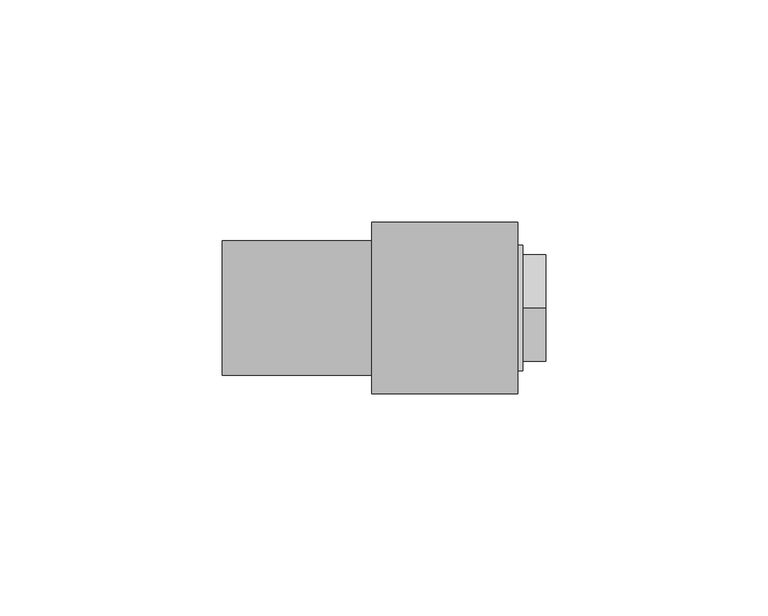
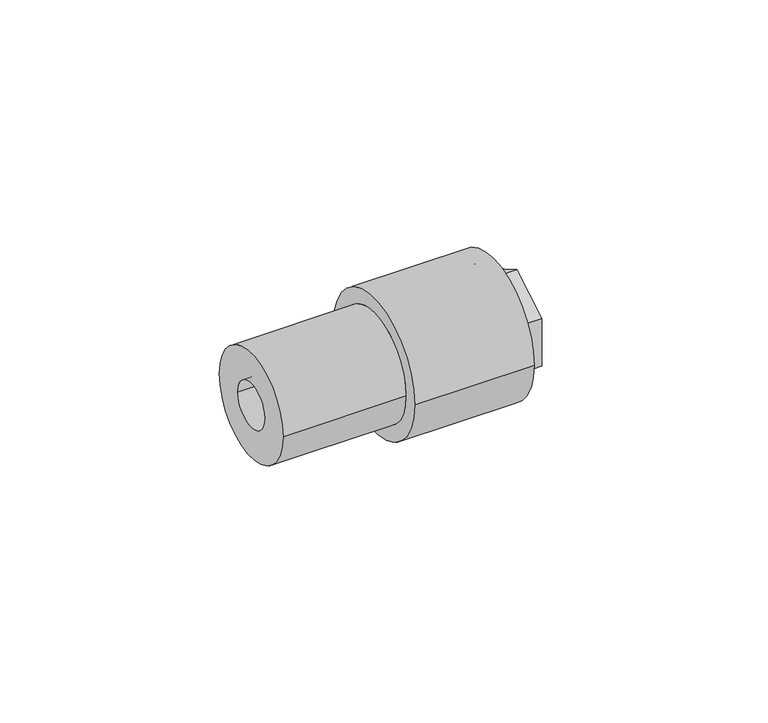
"""IFC4 building model written with IfcOpenShell, lengths in millimetres: pipe fitting geometry, Aquatherm - Fusion Outlet Transition Female : POTABLE BRASS - HEX."""

from ifc_helpers import new_model, si_unit, frame, origin, place, context, project, spatial, polyline, circle_curve, source, transform, mapped, element, save
from ifc_brep_helpers import plane_surface, cylinder_surface, revolved_surface, advanced_brep


def pipe_fitting_379d69c2(model_context):
    return source(origin(), model_context, "Body", "AdvancedBrep", [
        advanced_brep(
        [(26.416, 9.525, 0.0), (26.416, -9.525, 0.0), (36.5363125, -9.525, 0.0), (36.5363125, 9.525, 0.0), (26.416, 10.31875, 0.0), (26.416, -10.31875, 0.0), (23.241, 10.31875, 0.0), (23.241, -10.31875, 0.0), (23.241, 6.35, 0.0), (23.241, -6.35, 0.0), (20.066, 6.35, 0.0), (20.066, -6.35, 0.0), (20.066, 15.113, 0.0), (20.066, -15.113, 0.0), (32.766, 15.113, 0.0), (32.766, -15.113, 0.0), (39.116, 10.31875, 0.0), (39.116, -10.31875, 0.0), (39.116, -11.938, 0.0), (39.116, -11.938, -6.8924075), (39.116, 0.0, -13.784815), (39.116, 11.938, -6.8924075), (39.116, 11.938, 0.0), (39.116, 11.938, 6.8924075), (39.116, 0.0, 13.784815), (39.116, -11.938, 6.8924075), (32.766, 14.097, 0.0), (32.766, -14.097, 0.0), (33.956625, 14.097, 0.0), (33.956625, -14.097, 0.0), (33.956625, 0.0, -13.784815), (33.956625, -11.938, -6.8924075), (33.956625, -11.938, 6.8924075), (33.956625, 0.0, 13.784815), (33.956625, 11.938, 6.8924075), (33.956625, 11.938, -6.8924075)],
        [
            (0, 1, circle_curve(frame((26.416, 0.0, 0.0), z_axis=(-1.0, 0.0, 0.0), x_axis=(0.0, -1.0, 0.0)), 9.525)),
            (1, 2),
            (2, 3, circle_curve(frame((36.5363125, 0.0, 0.0), z_axis=(1.0, 0.0, 0.0), x_axis=(0.0, -1.0, 0.0)), 9.525)),
            (3, 0),
            (1, 0, circle_curve(frame((26.416, 0.0, 0.0), z_axis=(-1.0, 0.0, 0.0), x_axis=(0.0, -1.0, 0.0)), 9.525)),
            (3, 2, circle_curve(frame((36.5363125, 0.0, 0.0), z_axis=(1.0, 0.0, 0.0), x_axis=(0.0, -1.0, 0.0)), 9.525)),
            (0, 4),
            (4, 5, circle_curve(frame((26.416, 0.0, 0.0), z_axis=(-1.0, 0.0, 0.0), x_axis=(0.0, -1.0, 0.0)), 10.31875)),
            (5, 1),
            (5, 4, circle_curve(frame((26.416, 0.0, 0.0), z_axis=(-1.0, 0.0, 0.0), x_axis=(0.0, -1.0, 0.0)), 10.31875)),
            (4, 6),
            (6, 7, circle_curve(frame((23.241, 0.0, 0.0), z_axis=(-1.0, 0.0, 0.0), x_axis=(0.0, -1.0, 0.0)), 10.31875)),
            (7, 5),
            (7, 6, circle_curve(frame((23.241, 0.0, 0.0), z_axis=(-1.0, 0.0, 0.0), x_axis=(0.0, -1.0, 0.0)), 10.31875)),
            (6, 8),
            (8, 9, circle_curve(frame((23.241, 0.0, 0.0), z_axis=(-1.0, 0.0, 0.0), x_axis=(0.0, -1.0, 0.0)), 6.35)),
            (9, 7),
            (9, 8, circle_curve(frame((23.241, 0.0, 0.0), z_axis=(-1.0, 0.0, 0.0), x_axis=(0.0, -1.0, 0.0)), 6.35)),
            (8, 10),
            (10, 11, circle_curve(frame((20.066, 0.0, 0.0), z_axis=(-1.0, 0.0, 0.0), x_axis=(0.0, -1.0, 0.0)), 6.35)),
            (11, 9),
            (11, 10, circle_curve(frame((20.066, 0.0, 0.0), z_axis=(-1.0, 0.0, 0.0), x_axis=(0.0, -1.0, 0.0)), 6.35)),
            (10, 12),
            (12, 13, circle_curve(frame((20.066, 0.0, 0.0), z_axis=(-1.0, 0.0, 0.0), x_axis=(0.0, -1.0, 0.0)), 15.113)),
            (13, 11),
            (13, 12, circle_curve(frame((20.066, 0.0, 0.0), z_axis=(-1.0, 0.0, 0.0), x_axis=(0.0, -1.0, 0.0)), 15.113)),
            (12, 14),
            (14, 15, circle_curve(frame((32.766, 0.0, 0.0), z_axis=(-1.0, 0.0, 0.0), x_axis=(0.0, -1.0, 0.0)), 15.113)),
            (15, 13),
            (15, 14, circle_curve(frame((32.766, 0.0, 0.0), z_axis=(-1.0, 0.0, 0.0), x_axis=(0.0, -1.0, 0.0)), 15.113)),
            (16, 17, circle_curve(frame((39.116, 0.0, 0.0), z_axis=(-1.0, 0.0, 0.0), x_axis=(0.0, -1.0, 0.0)), 10.31875)),
            (17, 18),
            (18, 19),
            (19, 20),
            (20, 21),
            (21, 22),
            (22, 16),
            (17, 16, circle_curve(frame((39.116, 0.0, 0.0), z_axis=(-1.0, 0.0, 0.0), x_axis=(0.0, -1.0, 0.0)), 10.31875)),
            (22, 23),
            (23, 24),
            (24, 25),
            (25, 18),
            (2, 17),
            (16, 3),
            (14, 26),
            (26, 27, circle_curve(frame((32.766, 0.0, 0.0), z_axis=(-1.0, 0.0, 0.0), x_axis=(0.0, -1.0, 0.0)), 14.097)),
            (27, 15),
            (27, 26, circle_curve(frame((32.766, 0.0, 0.0), z_axis=(-1.0, 0.0, 0.0), x_axis=(0.0, -1.0, 0.0)), 14.097)),
            (26, 28),
            (28, 29, circle_curve(frame((33.956625, 0.0, 0.0), z_axis=(-1.0, 0.0, 0.0), x_axis=(0.0, -1.0, 0.0)), 14.097)),
            (29, 27),
            (29, 28, circle_curve(frame((33.956625, 0.0, 0.0), z_axis=(-1.0, 0.0, 0.0), x_axis=(0.0, -1.0, 0.0)), 14.097)),
            (30, 31),
            (31, 32),
            (32, 33),
            (33, 34),
            (34, 35),
            (35, 30),
            (35, 21),
            (20, 30),
            (34, 23),
            (33, 24),
            (32, 25),
            (31, 19),
        ],
        [
            revolved_surface(polyline([(36.5363125, -9.525, 0.0), (26.416, -9.525, 0.0)]), (40.9492251, 0.0, 0.0), (1.0, 0.0, 0.0)),
            plane_surface(frame((26.416, 0.0, 0.0), z_axis=(-1.0, 0.0, 0.0), x_axis=(0.0, -1.0, 0.0))),
            revolved_surface(polyline([(26.416, -10.31875, 0.0), (23.241, -10.31875, 0.0)]), (40.9492251, 0.0, 0.0), (1.0, 0.0, 0.0)),
            plane_surface(frame((23.241, 0.0, 0.0), z_axis=(1.0, 0.0, 0.0), x_axis=(0.0, -1.0, 0.0))),
            revolved_surface(polyline([(23.241, -6.35, 0.0), (20.066, -6.35, 0.0)]), (40.9492251, 0.0, 0.0), (1.0, 0.0, 0.0)),
            plane_surface(frame((20.066, 0.0, 0.0), z_axis=(-1.0, 0.0, 0.0), x_axis=(0.0, -1.0, 0.0))),
            cylinder_surface(frame((40.9492251, 0.0, 0.0), z_axis=(1.0, 0.0, 0.0), x_axis=(0.0, -1.0, 0.0)), 15.113),
            plane_surface(frame((39.116, 0.0, 0.0), z_axis=(1.0, 0.0, 0.0), x_axis=(0.0, -1.0, 0.0))),
            revolved_surface(polyline([(39.116, -10.31875, 0.0), (36.5363125, -9.525, 0.0)]), (40.9492251, 0.0, 0.0), (1.0, 0.0, 0.0)),
            plane_surface(frame((32.766, 0.0, 0.0), z_axis=(1.0, 0.0, 0.0), x_axis=(0.0, -1.0, 0.0))),
            cylinder_surface(frame((40.9492251, 0.0, 0.0), z_axis=(1.0, 0.0, 0.0), x_axis=(0.0, -1.0, 0.0)), 14.097),
            plane_surface(frame((33.956625, 11.938, -6.8924075), z_axis=(1.0, 0.0, 0.0), x_axis=(0.0, 0.8660254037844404, 0.49999999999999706))),
            plane_surface(frame((33.956625, 0.0, -13.784815), z_axis=(0.0, 0.49999999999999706, -0.8660254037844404), x_axis=(1.0, 0.0, 0.0))),
            plane_surface(frame((33.956625, 11.938, -6.8924075), z_axis=(0.0, 1.0, 0.0), x_axis=(1.0, 0.0, 0.0))),
            plane_surface(frame((33.956625, 11.938, 6.8924075), z_axis=(0.0, 0.5000000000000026, 0.8660254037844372), x_axis=(1.0, 0.0, 0.0))),
            plane_surface(frame((33.956625, 0.0, 13.784815), z_axis=(0.0, -0.4999999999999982, 0.8660254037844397), x_axis=(1.0, 0.0, 0.0))),
            plane_surface(frame((33.956625, -11.938, 6.8924075), z_axis=(0.0, -1.0, 0.0), x_axis=(1.0, 0.0, 0.0))),
            plane_surface(frame((33.956625, -11.938, -6.8924075), z_axis=(0.0, -0.5000000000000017, -0.8660254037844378), x_axis=(1.0, 0.0, 0.0))),
        ],
        [
            (0, [[1, 2, 3, 4]]),
            (0, [[-2, 5, -4, 6]]),
            (1, [[-1, 7, 8, 9]]),
            (1, [[-5, -9, 10, -7]]),
            (2, [[-8, 11, 12, 13]]),
            (2, [[-10, -13, 14, -11]]),
            (3, [[-12, 15, 16, 17]]),
            (3, [[-14, -17, 18, -15]]),
            (4, [[-16, 19, 20, 21]]),
            (4, [[-18, -21, 22, -19]]),
            (5, [[-20, 23, 24, 25]]),
            (5, [[-22, -25, 26, -23]]),
            (6, [[-24, 27, 28, 29]]),
            (6, [[-26, -29, 30, -27]]),
            (7, [[31, 32, 33, 34, 35, 36, 37]]),
            (7, [[38, -37, 39, 40, 41, 42, -32]]),
            (8, [[-3, 43, -31, 44]]),
            (8, [[-6, -44, -38, -43]]),
            (9, [[-28, 45, 46, 47]]),
            (9, [[-30, -47, 48, -45]]),
            (10, [[-46, 49, 50, 51]]),
            (10, [[-48, -51, 52, -49]]),
            (11, [[-50, -52], [53, 54, 55, 56, 57, 58]]),
            (12, [[-58, 59, -35, 60]]),
            (13, [[-57, 61, -39, -36, -59]]),
            (14, [[-56, 62, -40, -61]]),
            (15, [[-55, 63, -41, -62]]),
            (16, [[-54, 64, -33, -42, -63]]),
            (17, [[-53, -60, -34, -64]]),
        ],
    ),
        advanced_brep(
        [(-33.7064865, 15.113, 0.0), (-33.7064865, -15.113, 0.0), (-33.7064865, 6.35, 0.0), (-33.7064865, -6.35, 0.0), (20.066, 15.113, 0.0), (20.066, -15.113, 0.0), (20.066, 6.35, 0.0), (20.066, -6.35, 0.0), (0.0, 15.113, 0.0), (0.0, -15.113, 0.0), (32.766, 19.304, 0.0), (32.766, -19.304, 0.0), (32.766, 15.113, 0.0), (32.766, -15.113, 0.0), (0.0, 19.304, 0.0), (0.0, -19.304, 0.0)],
        [
            (0, 1, circle_curve(frame((-33.7064865, 0.0, 0.0), z_axis=(-1.0, 0.0, 0.0), x_axis=(0.0, -1.0, 0.0)), 15.113)),
            (1, 0, circle_curve(frame((-33.7064865, 0.0, 0.0), z_axis=(-1.0, 0.0, 0.0), x_axis=(0.0, -1.0, 0.0)), 15.113)),
            (2, 3, circle_curve(frame((-33.7064865, 0.0, 0.0), z_axis=(1.0, 0.0, 0.0), x_axis=(0.0, -1.0, 0.0)), 6.35)),
            (3, 2, circle_curve(frame((-33.7064865, 0.0, 0.0), z_axis=(1.0, 0.0, 0.0), x_axis=(0.0, -1.0, 0.0)), 6.35)),
            (4, 5, circle_curve(frame((20.066, 0.0, 0.0), z_axis=(1.0, 0.0, 0.0), x_axis=(0.0, -1.0, 0.0)), 15.113)),
            (5, 4, circle_curve(frame((20.066, 0.0, 0.0), z_axis=(1.0, 0.0, 0.0), x_axis=(0.0, -1.0, 0.0)), 15.113)),
            (6, 7, circle_curve(frame((20.066, 0.0, 0.0), z_axis=(-1.0, 0.0, 0.0), x_axis=(0.0, -1.0, 0.0)), 6.35)),
            (7, 6, circle_curve(frame((20.066, 0.0, 0.0), z_axis=(-1.0, 0.0, 0.0), x_axis=(0.0, -1.0, 0.0)), 6.35)),
            (2, 6),
            (7, 3),
            (0, 8),
            (8, 9, circle_curve(frame((0.0, 0.0, 0.0), z_axis=(-1.0, 0.0, 0.0), x_axis=(0.0, -1.0, 0.0)), 15.113)),
            (9, 1),
            (9, 8, circle_curve(frame((0.0, 0.0, 0.0), z_axis=(-1.0, 0.0, 0.0), x_axis=(0.0, -1.0, 0.0)), 15.113)),
            (10, 11, circle_curve(frame((32.766, 0.0, 0.0), z_axis=(1.0, 0.0, 0.0), x_axis=(0.0, -1.0, 0.0)), 19.304)),
            (11, 10, circle_curve(frame((32.766, 0.0, 0.0), z_axis=(1.0, 0.0, 0.0), x_axis=(0.0, -1.0, 0.0)), 19.304)),
            (12, 13, circle_curve(frame((32.766, 0.0, 0.0), z_axis=(-1.0, 0.0, 0.0), x_axis=(0.0, -1.0, 0.0)), 15.113)),
            (13, 12, circle_curve(frame((32.766, 0.0, 0.0), z_axis=(-1.0, 0.0, 0.0), x_axis=(0.0, -1.0, 0.0)), 15.113)),
            (14, 15, circle_curve(frame((0.0, 0.0, 0.0), z_axis=(-1.0, 0.0, 0.0), x_axis=(0.0, -1.0, 0.0)), 19.304)),
            (15, 14, circle_curve(frame((0.0, 0.0, 0.0), z_axis=(-1.0, 0.0, 0.0), x_axis=(0.0, -1.0, 0.0)), 19.304)),
            (13, 5),
            (4, 12),
            (11, 15),
            (14, 10),
        ],
        [
            plane_surface(frame((-33.7064865, -6.35, 0.0), z_axis=(-1.0, 0.0, 0.0), x_axis=(0.0, 0.0, -1.0))),
            plane_surface(frame((20.066, -6.35, 0.0), z_axis=(1.0, 0.0, 0.0), x_axis=(0.0, 0.0, 1.0))),
            revolved_surface(polyline([(20.066, -6.35, 0.0), (-33.7064865, -6.35, 0.0)]), (20.066, 0.0, 0.0), (1.0, 0.0, 0.0)),
            cylinder_surface(frame((0.0, 0.0, 0.0), z_axis=(-1.0, 0.0, 0.0), x_axis=(0.0, -1.0, 0.0)), 15.113),
            plane_surface(frame((32.766, -15.113, 0.0), z_axis=(1.0, 0.0, 0.0), x_axis=(0.0, 0.0, 1.0))),
            plane_surface(frame((0.0, -15.113, 0.0), z_axis=(-1.0, 0.0, 0.0), x_axis=(0.0, 0.0, -1.0))),
            revolved_surface(polyline([(32.766, -15.113, 0.0), (20.066, -15.113, 0.0)]), (32.766, 0.0, 0.0), (1.0, 0.0, 0.0)),
            cylinder_surface(frame((0.0, 0.0, 0.0), z_axis=(-1.0, 0.0, 0.0), x_axis=(0.0, -1.0, 0.0)), 19.304),
        ],
        [
            (0, [[1, 2], [3, 4]]),
            (1, [[5, 6], [7, 8]]),
            (2, [[-3, 9, -8, 10]]),
            (2, [[-4, -10, -7, -9]]),
            (3, [[-1, 11, 12, 13]]),
            (3, [[-2, -13, 14, -11]]),
            (4, [[15, 16], [17, 18]]),
            (5, [[19, 20], [-12, -14]]),
            (6, [[-18, 21, -5, 22]]),
            (6, [[-17, -22, -6, -21]]),
            (7, [[-16, 23, -19, 24]]),
            (7, [[-15, -24, -20, -23]]),
        ],
    ),
    ])


if __name__ == "__main__":
    model = new_model("IFC4")
    model_context = context("Model", 3, world=origin())
    ifc_project = project(units=[si_unit("LENGTHUNIT", "METRE", prefix="MILLI")], contexts=[model_context])
    site = spatial("IfcSite", under=ifc_project)
    building = spatial("IfcBuilding", under=site)
    placement = place(None, origin())
    pipe_fitting_shape = pipe_fitting_379d69c2(model_context)
    element("IfcPipeFitting", 1, ObjectType="Aquatherm - Fusion Outlet Transition Female : POTABLE BRASS - HEX", at=placement, inside=building, context=model_context, shape_type="MappedRepresentation", body=[
        mapped(pipe_fitting_shape, transform((0.0, 0.0, 0.0), x_axis=(1.0, 0.0, 0.0), y_axis=(0.0, 1.0, 0.0), z_axis=(0.0, 0.0, 1.0))),
    ])
    save(model, "model.ifc")
